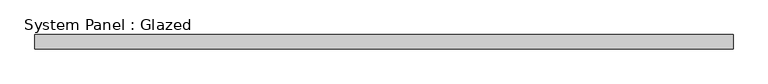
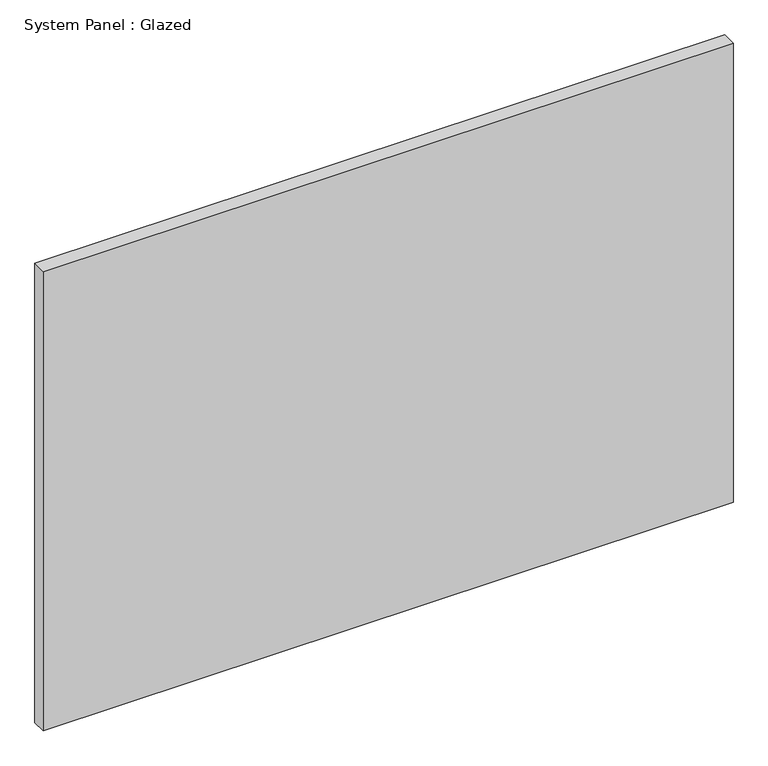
"""IFC4 building model written with IfcOpenShell, lengths in millimetres: plate geometry, System Panel : Glazed."""

import ifcopenshell
import ifcopenshell.guid

model = None  # the IFC model being written
_history = None  # IfcOwnerHistory: only IFC2X3 demands one
_inside = {}  # id of a spatial element -> (the spatial element, [elements in it])
_under = {}  # id of a project, library or spatial element -> (it, [spatial elements below it])
_declared = {}  # id of a project -> (the project, [libraries it declares])
_typed = {}  # id of a type object -> (the type object, [elements of that type])
_made_of = {}  # id of a material, layer set ... -> (it, [elements and type objects made of it])


def new_model(schema):
    """Start an empty IFC model of exactly this schema.

    Asked for "IFC4X3", IfcOpenShell would pick the latest addendum, in which some entities
    have other attributes; the version numbers below select the first issue.
    IFC2X3 requires an IfcOwnerHistory on every rooted entity: one is made here for all.
    """
    global model, _history
    if schema == "IFC4X3":
        model = ifcopenshell.file(schema_version=(4, 3, 0, 0))
    else:
        model = ifcopenshell.file(schema=schema)
    _inside.clear()
    _under.clear()
    _declared.clear()
    _typed.clear()
    _made_of.clear()
    _history = None
    if model.schema == "IFC2X3":
        org = make("IfcOrganization", Name="unknown")
        user = make(
            "IfcPersonAndOrganization",
            ThePerson=make("IfcPerson", FamilyName="unknown"),
            TheOrganization=org,
        )
        app = make(
            "IfcApplication",
            ApplicationDeveloper=org,
            Version="unknown",
            ApplicationFullName="unknown",
            ApplicationIdentifier="unknown",
        )
        _history = make(
            "IfcOwnerHistory",
            OwningUser=user,
            OwningApplication=app,
            ChangeAction="ADDED",
            CreationDate=0,
        )
    return model


def make(cls, **values):
    """One entity of the class cls with the attributes given. An attribute that is None is left unset."""
    return model.create_entity(
        cls, **{name: value for name, value in values.items() if value is not None}
    )


def rooted(cls, **values):
    """An entity with a GlobalId (a new one), such as an element, a storey or a relation."""
    return make(cls, GlobalId=ifcopenshell.guid.new(), OwnerHistory=_history, **values)


def si_unit(unit_type, name, prefix=None):
    """IfcSIUnit, for example si_unit("LENGTHUNIT", "METRE", prefix="MILLI")."""
    return make("IfcSIUnit", UnitType=unit_type, Prefix=prefix, Name=name)


def assignment(units):
    """IfcUnitAssignment: the units of a project."""
    return None if units is None else make("IfcUnitAssignment", Units=units)


def point(xyz):
    """IfcCartesianPoint."""
    return None if xyz is None else make("IfcCartesianPoint", Coordinates=xyz)


def direction(xyz):
    """IfcDirection."""
    return None if xyz is None else make("IfcDirection", DirectionRatios=xyz)


def frame(location, z_axis=None, x_axis=None):
    """IfcAxis2Placement3D, a coordinate frame: its origin and axes. An axis left out is left unset."""
    return make(
        "IfcAxis2Placement3D",
        Location=point(location),
        Axis=direction(z_axis),
        RefDirection=direction(x_axis),
    )


def origin():
    """The frame at (0, 0, 0) with its axes left unset."""
    return frame((0.0, 0.0, 0.0))


def origin_with_axes():
    """The frame at (0, 0, 0) with the z axis (0, 0, 1) and the x axis (1, 0, 0) written out."""
    return frame((0.0, 0.0, 0.0), z_axis=(0.0, 0.0, 1.0), x_axis=(1.0, 0.0, 0.0))


def place(relative_to, where):
    """IfcLocalPlacement: puts the frame where relative to a parent placement (None: the world)."""
    return make(
        "IfcLocalPlacement", PlacementRelTo=relative_to, RelativePlacement=where
    )


def context(
    kind, dimensions, precision=None, world=None, true_north=None, identifier=None
):
    """IfcGeometricRepresentationContext, for example the 3D "Model" context."""
    return make(
        "IfcGeometricRepresentationContext",
        ContextIdentifier=identifier,
        ContextType=kind,
        CoordinateSpaceDimension=dimensions,
        Precision=precision,
        WorldCoordinateSystem=world,
        TrueNorth=true_north,
    )


def project(units=None, contexts=None):
    """IfcProject with its units and contexts."""
    return rooted(
        "IfcProject",
        Name="project",
        RepresentationContexts=contexts,
        UnitsInContext=assignment(units),
    )


def spatial(cls, under=None, at=None, **own):
    """A site, building, storey or space (cls), placed at a placement, below another one or the project."""
    s = rooted(cls, ObjectPlacement=at, **own)
    if under is not None:
        _under.setdefault(under.id(), (under, []))[1].append(s)
    return s


def polyline(points):
    """IfcPolyline through the points."""
    return make("IfcPolyline", Points=[point(p) for p in points])


def outline(outer, holes=None, kind="AREA"):
    """IfcArbitraryClosedProfileDef: a profile drawn as a closed curve; with holes, ...WithVoids."""
    if holes is None:
        return make("IfcArbitraryClosedProfileDef", ProfileType=kind, OuterCurve=outer)
    return make(
        "IfcArbitraryProfileDefWithVoids",
        ProfileType=kind,
        OuterCurve=outer,
        InnerCurves=holes,
    )


def extrude(swept, where, along, depth):
    """IfcExtrudedAreaSolid: the profile swept, set in the frame where, extruded along a direction by depth."""
    return make(
        "IfcExtrudedAreaSolid",
        SweptArea=swept,
        Position=where,
        ExtrudedDirection=direction(along),
        Depth=depth,
    )


def shape(context_of_items, identifier, shape_type, items):
    """IfcShapeRepresentation: the items that make up one representation, for example the "Body"."""
    return make(
        "IfcShapeRepresentation",
        ContextOfItems=context_of_items,
        RepresentationIdentifier=identifier,
        RepresentationType=shape_type,
        Items=items,
    )


def source(mapping_origin, context_of_items, identifier, shape_type, items):
    """IfcRepresentationMap: a shape defined once, which mapped items show again and again."""
    return make(
        "IfcRepresentationMap",
        MappingOrigin=mapping_origin,
        MappedRepresentation=shape(context_of_items, identifier, shape_type, items),
    )


def transform(
    local_origin,
    x_axis=None,
    y_axis=None,
    z_axis=None,
    scale=None,
    scale2=None,
    scale3=None,
    uniform=True,
):
    """IfcCartesianTransformationOperator3D, or its non-uniform kind. x_axis, y_axis, z_axis: its Axis1, 2, 3."""
    if uniform:
        return make(
            "IfcCartesianTransformationOperator3D",
            Axis1=direction(x_axis),
            Axis2=direction(y_axis),
            LocalOrigin=point(local_origin),
            Scale=scale,
            Axis3=direction(z_axis),
        )
    return make(
        "IfcCartesianTransformationOperator3DnonUniform",
        Axis1=direction(x_axis),
        Axis2=direction(y_axis),
        LocalOrigin=point(local_origin),
        Scale=scale,
        Axis3=direction(z_axis),
        Scale2=scale2,
        Scale3=scale3,
    )


def mapped(mapping_source, mapping_target):
    """IfcMappedItem: shows the shape of a source again, moved by a transform."""
    return make(
        "IfcMappedItem", MappingSource=mapping_source, MappingTarget=mapping_target
    )


def made_of(thing, what):
    """Note that an element or type object is made of a material, layer set ...; save() writes the relation."""
    if what is not None:
        _made_of.setdefault(what.id(), (what, []))[1].append(thing)
    return thing


def element(
    cls,
    number,
    at=None,
    inside=None,
    cuts=None,
    type_object=None,
    material=None,
    context=None,
    identifier="Body",
    shape_type=None,
    held_by="IfcProductDefinitionShape",
    body=None,
    shapes=None,
    **own,
):
    """One element of the class cls, such as IfcWall. Its Tag is "e" and its number.

    at: its placement. inside: the storey or other place that contains it. cuts: it is an
    opening in that element (IfcRelVoidsElement). A single representation is given by context,
    identifier, shape_type and body (its items); several are given by shapes. held_by: the class
    of the entity that holds the representations. save() writes the other relations.
    """
    e = rooted(cls, Tag="e%d" % number, ObjectPlacement=at, **own)
    if body is not None:
        shapes = [shape(context, identifier, shape_type, body)]
    if shapes is not None:
        e.Representation = make(held_by, Representations=shapes)
    if inside is not None:
        _inside.setdefault(inside.id(), (inside, []))[1].append(e)
    if cuts is not None:
        rooted(
            "IfcRelVoidsElement", RelatingBuildingElement=cuts, RelatedOpeningElement=e
        )
    if type_object is not None:
        _typed.setdefault(type_object.id(), (type_object, []))[1].append(e)
    return made_of(e, material)


def aggregate(whole, parts):
    """IfcRelAggregates: a whole, such as a stair, and the parts it consists of."""
    return rooted("IfcRelAggregates", RelatingObject=whole, RelatedObjects=parts)


def save(model, path):
    """Write the relations noted so far, then the file.

    IfcRelAggregates (storeys below a building ...), IfcRelContainedInSpatialStructure (elements
    in a storey), IfcRelDefinesByType, IfcRelAssociatesMaterial and IfcRelDeclares: one each for
    every whole, place, type object, material and project.
    """
    for whole, parts in _under.values():
        aggregate(whole, parts)
    for where, things in _inside.values():
        rooted(
            "IfcRelContainedInSpatialStructure",
            RelatedElements=things,
            RelatingStructure=where,
        )
    for kind, things in _typed.values():
        rooted("IfcRelDefinesByType", RelatedObjects=things, RelatingType=kind)
    for what, things in _made_of.values():
        rooted("IfcRelAssociatesMaterial", RelatedObjects=things, RelatingMaterial=what)
    for by, libraries in _declared.values():
        rooted("IfcRelDeclares", RelatingContext=by, RelatedDefinitions=libraries)
    model.write(path)


def system_panel_glazed_dff3f8f4(model_context):
    return source(origin(), model_context, "Body", "SweptSolid", [
        extrude(outline(polyline([(619.2304533, 19.05), (-619.2304533, 19.05), (-619.2304533, 44.45), (619.2304533, 44.45), (619.2304533, 19.05)])), origin_with_axes(), (0.0, 0.0, 1.0), 871.864222),
    ])


if __name__ == "__main__":
    model = new_model("IFC4")
    model_context = context("Model", 3, world=origin())
    ifc_project = project(units=[si_unit("LENGTHUNIT", "METRE", prefix="MILLI")], contexts=[model_context])
    site = spatial("IfcSite", under=ifc_project)
    building = spatial("IfcBuilding", under=site)
    placement = place(None, origin())
    system_panel_glazed_shape = system_panel_glazed_dff3f8f4(model_context)
    element("IfcPlate", 1, ObjectType="System Panel : Glazed", at=placement, inside=building, context=model_context, shape_type="MappedRepresentation", body=[
        mapped(system_panel_glazed_shape, transform((0.0, 0.0, 0.0), x_axis=(1.0, 0.0, 0.0), y_axis=(0.0, 1.0, 0.0), z_axis=(0.0, 0.0, 1.0))),
    ])
    save(model, "model.ifc")
